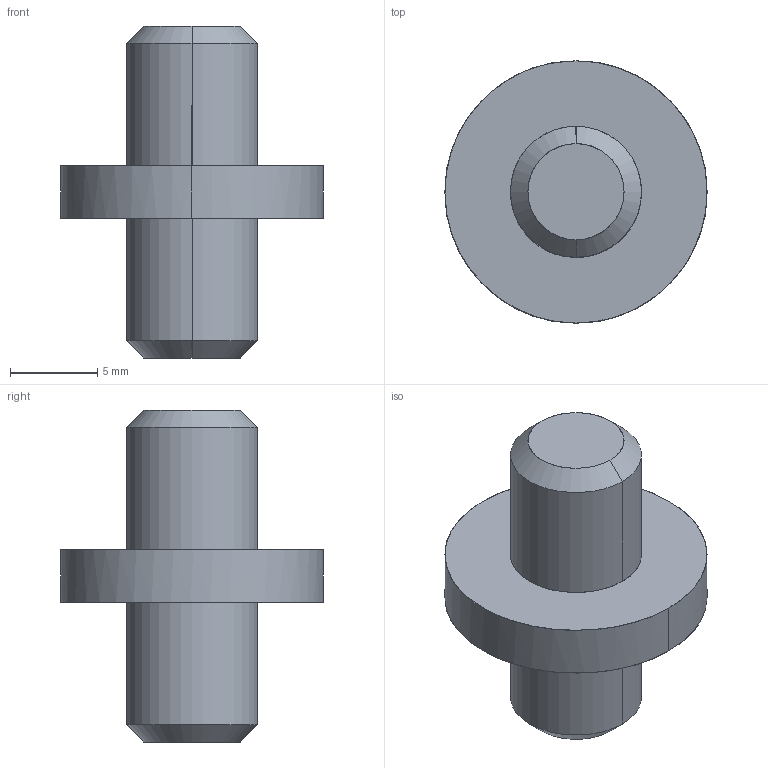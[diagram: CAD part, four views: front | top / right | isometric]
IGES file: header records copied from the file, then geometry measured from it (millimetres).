
Global section: file name: E:\UnigraphicsGraphicData\MISUMI_PRESS-PARTS\IGES\3d_sswc15_00821_r00.igs; native system: NX V5.0; preprocessor: UGS NX IGES V5.0; author: MISUMI; date: 20110105.163200; units: millimetre
Bounding box: 15 x 15 x 19 mm (x, y, z)
Surface area: 842.6 mm2 (no closed solid volume)
Topology: 0 solids, 0 shells, 14 faces, 88 edges, 88 vertices
Faces by surface type: bspline 14
